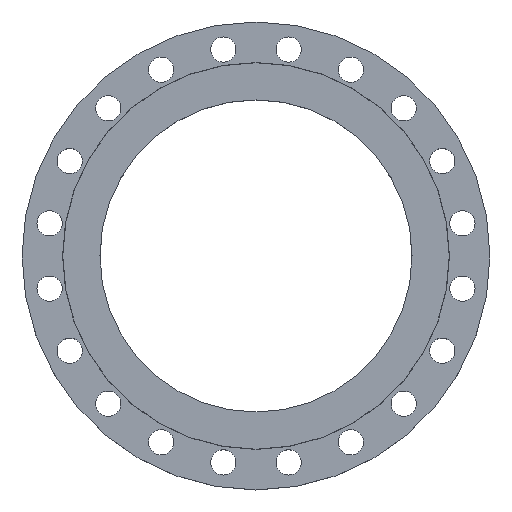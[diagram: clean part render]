
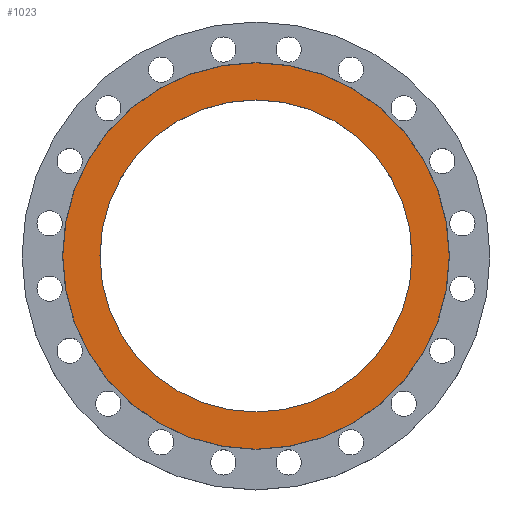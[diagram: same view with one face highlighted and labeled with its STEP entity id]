
A CAD part, top view. The second image highlights one B-rep face of the part: STEP entity #1023.
In plain terms, the highlighted planar face has unit normal (0, 0, 1).
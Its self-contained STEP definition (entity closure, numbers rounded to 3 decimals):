
#21 = CARTESIAN_POINT ( 'NONE',  ( -367.5, 0., 0. ) ) ;
#105 = CARTESIAN_POINT ( 'NONE',  ( 367.5, 0., 0. ) ) ;
#161 = CIRCLE ( 'NONE', #1896, 367.5 ) ;
#366 = EDGE_CURVE ( 'NONE', #1636, #1739, #1223, .T. ) ;
#411 = CARTESIAN_POINT ( 'NONE',  ( 296.752, 0., 0. ) ) ;
#421 = DIRECTION ( 'NONE',  ( -1., 0., 0. ) ) ;
#422 = DIRECTION ( 'NONE',  ( 0., 0., -1. ) ) ;
#426 = CARTESIAN_POINT ( 'NONE',  ( 0., 0., 0. ) ) ;
#461 = DIRECTION ( 'NONE',  ( 1., 0., 0. ) ) ;
#462 = DIRECTION ( 'NONE',  ( 0., 0., 1. ) ) ;
#464 = CARTESIAN_POINT ( 'NONE',  ( 0., 0., 0. ) ) ;
#465 = PLANE ( 'NONE',  #1392 ) ;
#467 = FACE_OUTER_BOUND ( 'NONE', #936, .T. ) ;
#468 = FACE_BOUND ( 'NONE', #906, .T. ) ;
#739 = DIRECTION ( 'NONE',  ( 1., 0., 0. ) ) ;
#740 = DIRECTION ( 'NONE',  ( 0., 0., 1. ) ) ;
#742 = CARTESIAN_POINT ( 'NONE',  ( 0., 0., 0. ) ) ;
#906 = EDGE_LOOP ( 'NONE', ( #1191, #1190 ) ) ;
#936 = EDGE_LOOP ( 'NONE', ( #1189, #1188 ) ) ;
#1023 = ADVANCED_FACE ( 'NONE', ( #468, #467 ), #465, .T. ) ;
#1086 = EDGE_CURVE ( 'NONE', #1612, #1497, #1432, .T. ) ;
#1141 = CARTESIAN_POINT ( 'NONE',  ( -296.752, 0., 0. ) ) ;
#1142 = CARTESIAN_POINT ( 'NONE',  ( 0., 0., 0. ) ) ;
#1163 = DIRECTION ( 'NONE',  ( 0., 0., 1. ) ) ;
#1165 = DIRECTION ( 'NONE',  ( 1., 0., 0. ) ) ;
#1188 = ORIENTED_EDGE ( 'NONE', *, *, #1858, .F. ) ;
#1189 = ORIENTED_EDGE ( 'NONE', *, *, #1086, .F. ) ;
#1190 = ORIENTED_EDGE ( 'NONE', *, *, #1761, .F. ) ;
#1191 = ORIENTED_EDGE ( 'NONE', *, *, #366, .F. ) ;
#1223 = CIRCLE ( 'NONE', #1234, 296.752 ) ;
#1234 = AXIS2_PLACEMENT_3D ( 'NONE', #742, #740, #739 ) ;
#1392 = AXIS2_PLACEMENT_3D ( 'NONE', #464, #462, #461 ) ;
#1432 = CIRCLE ( 'NONE', #1434, 367.5 ) ;
#1434 = AXIS2_PLACEMENT_3D ( 'NONE', #426, #422, #421 ) ;
#1497 = VERTEX_POINT ( 'NONE', #105 ) ;
#1515 = CIRCLE ( 'NONE', #1529, 296.752 ) ;
#1529 = AXIS2_PLACEMENT_3D ( 'NONE', #1142, #1163, #1165 ) ;
#1612 = VERTEX_POINT ( 'NONE', #21 ) ;
#1636 = VERTEX_POINT ( 'NONE', #411 ) ;
#1739 = VERTEX_POINT ( 'NONE', #1141 ) ;
#1761 = EDGE_CURVE ( 'NONE', #1739, #1636, #1515, .T. ) ;
#1853 = CARTESIAN_POINT ( 'NONE',  ( 0., 0., 0. ) ) ;
#1858 = EDGE_CURVE ( 'NONE', #1497, #1612, #161, .T. ) ;
#1869 = DIRECTION ( 'NONE',  ( 0., 0., -1. ) ) ;
#1879 = DIRECTION ( 'NONE',  ( -1., 0., 0. ) ) ;
#1896 = AXIS2_PLACEMENT_3D ( 'NONE', #1853, #1869, #1879 ) ;
